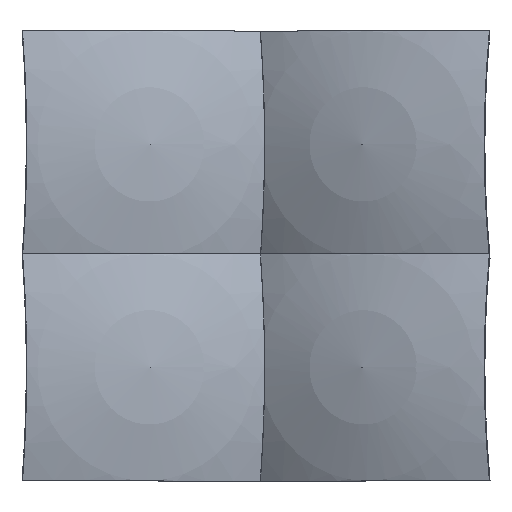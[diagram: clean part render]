
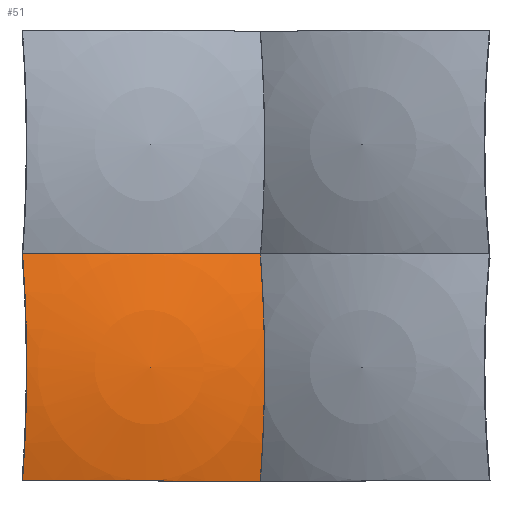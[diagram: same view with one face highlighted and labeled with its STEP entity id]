
A CAD part, top view. The second image highlights one B-rep face of the part: STEP entity #51.
In plain terms, the highlighted spherical face has radius 1104.5 mm.
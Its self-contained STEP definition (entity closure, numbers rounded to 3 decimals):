
#51 = ADVANCED_FACE( '', ( #105 ), #106, .T. );
#105 = FACE_OUTER_BOUND( '', #164, .T. );
#106 = SPHERICAL_SURFACE( '', #165, 1104.5 );
#164 = EDGE_LOOP( '', ( #219, #220, #221, #222 ) );
#165 = AXIS2_PLACEMENT_3D( '', #223, #224, #225 );
#219 = ORIENTED_EDGE( '', *, *, #315, .F. );
#220 = ORIENTED_EDGE( '', *, *, #316, .F. );
#221 = ORIENTED_EDGE( '', *, *, #317, .F. );
#222 = ORIENTED_EDGE( '', *, *, #318, .F. );
#223 = CARTESIAN_POINT( '', ( 0., 0., 1103. ) );
#224 = DIRECTION( '', ( 0., 0., 1. ) );
#225 = DIRECTION( '', ( 1., 0., 0. ) );
#315 = EDGE_CURVE( '', #351, #352, #353, .F. );
#316 = EDGE_CURVE( '', #354, #351, #355, .F. );
#317 = EDGE_CURVE( '', #356, #354, #357, .F. );
#318 = EDGE_CURVE( '', #352, #356, #358, .F. );
#351 = VERTEX_POINT( '', #403 );
#352 = VERTEX_POINT( '', #404 );
#353 = CIRCLE( '', #405, 1069.717 );
#354 = VERTEX_POINT( '', #406 );
#355 = CIRCLE( '', #407, 1062.977 );
#356 = VERTEX_POINT( '', #408 );
#357 = CIRCLE( '', #409, 1069.717 );
#358 = CIRCLE( '', #410, 1062.977 );
#403 = CARTESIAN_POINT( '', ( 300., 275., 76.211 ) );
#404 = CARTESIAN_POINT( '', ( -300., 275., 76.211 ) );
#405 = AXIS2_PLACEMENT_3D( '', #462, #463, #464 );
#406 = CARTESIAN_POINT( '', ( 300., -275., 76.211 ) );
#407 = AXIS2_PLACEMENT_3D( '', #465, #466, #467 );
#408 = CARTESIAN_POINT( '', ( -300., -275., 76.211 ) );
#409 = AXIS2_PLACEMENT_3D( '', #468, #469, #470 );
#410 = AXIS2_PLACEMENT_3D( '', #471, #472, #473 );
#462 = CARTESIAN_POINT( '', ( 0., 275., 1103. ) );
#463 = DIRECTION( '', ( 0., -1., 0. ) );
#464 = DIRECTION( '', ( 1., 0., 0. ) );
#465 = CARTESIAN_POINT( '', ( 300., 0., 1103. ) );
#466 = DIRECTION( '', ( -1., 0., 0. ) );
#467 = DIRECTION( '', ( 0., 0., 1. ) );
#468 = CARTESIAN_POINT( '', ( 0., -275., 1103. ) );
#469 = DIRECTION( '', ( 0., 1., 0. ) );
#470 = DIRECTION( '', ( -1., 0., 0. ) );
#471 = CARTESIAN_POINT( '', ( -300., 0., 1103. ) );
#472 = DIRECTION( '', ( 1., 0., 0. ) );
#473 = DIRECTION( '', ( 0., 1., 0. ) );
